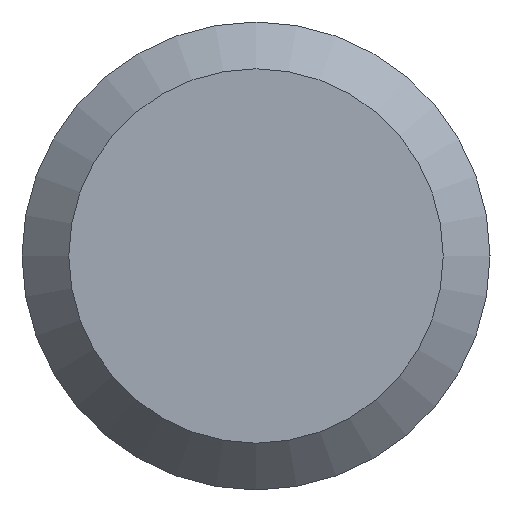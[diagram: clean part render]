
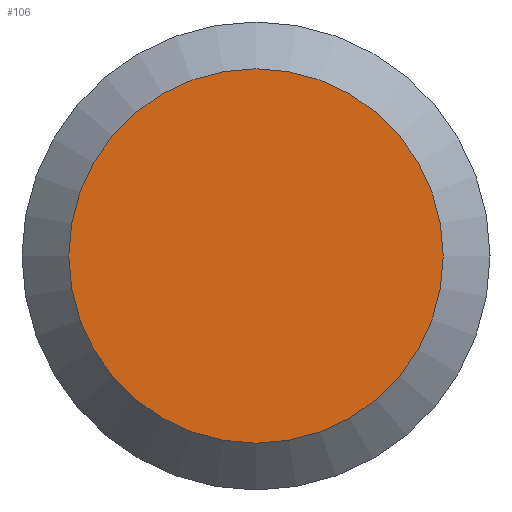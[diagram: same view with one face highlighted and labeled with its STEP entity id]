
A CAD part, left-side view. The second image highlights one B-rep face of the part: STEP entity #106.
In plain terms, the highlighted planar face has unit normal (-1, 0, 0).
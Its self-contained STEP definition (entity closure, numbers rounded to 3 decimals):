
#23 = CARTESIAN_POINT ( 'NONE',  ( 0., 0., 0. ) ) ;
#38 = CARTESIAN_POINT ( 'NONE',  ( 0., 10., 0. ) ) ;
#44 = DIRECTION ( 'NONE',  ( 0., 1., 0. ) ) ;
#50 = FACE_OUTER_BOUND ( 'NONE', #70, .T. ) ;
#68 = AXIS2_PLACEMENT_3D ( 'NONE', #94, #80, #44 ) ;
#70 = EDGE_LOOP ( 'NONE', ( #78 ) ) ;
#78 = ORIENTED_EDGE ( 'NONE', *, *, #152, .F. ) ;
#80 = DIRECTION ( 'NONE',  ( 1., 0., 0. ) ) ;
#94 = CARTESIAN_POINT ( 'NONE',  ( 0., 0., 0. ) ) ;
#106 = ADVANCED_FACE ( 'NONE', ( #50 ), #131, .T. ) ;
#116 = CIRCLE ( 'NONE', #68, 10. ) ;
#131 = PLANE ( 'NONE',  #177 ) ;
#132 = VERTEX_POINT ( 'NONE', #38 ) ;
#149 = DIRECTION ( 'NONE',  ( 0., -1., 0. ) ) ;
#152 = EDGE_CURVE ( 'NONE', #132, #132, #116, .T. ) ;
#177 = AXIS2_PLACEMENT_3D ( 'NONE', #23, #183, #149 ) ;
#183 = DIRECTION ( 'NONE',  ( -1., 0., 0. ) ) ;
